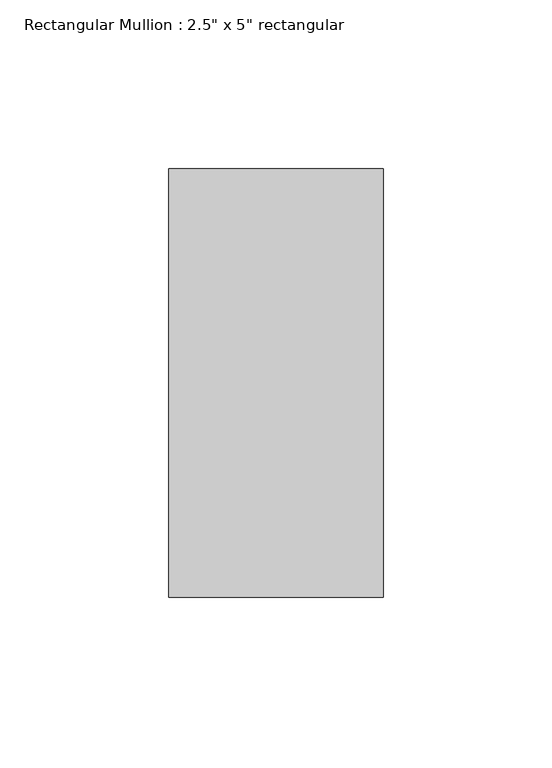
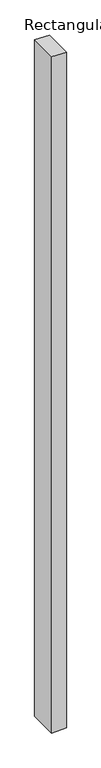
"""IFC4 building model written with IfcOpenShell, lengths in millimetres: member geometry."""

from ifc_helpers import new_model, si_unit, frame, origin, place, context, project, spatial, polyline, outline, extrude, source, transform, mapped, element, save


def member_fc36493b(model_context):
    return source(origin(), model_context, "Body", "SweptSolid", [
        extrude(outline(polyline([(0.0, 0.0), (1.1163299, -63.5), (-3088.9005782, -63.5), (-3087.8233328, 0.0), (0.0, 0.0)])), frame((0.0, -63.5, 0.0), z_axis=(0.0, 1.0, 0.0), x_axis=(0.0, 0.0, 1.0)), (0.0, 0.0, 1.0), 127.0),
    ])


if __name__ == "__main__":
    model = new_model("IFC4")
    model_context = context("Model", 3, world=origin())
    ifc_project = project(units=[si_unit("LENGTHUNIT", "METRE", prefix="MILLI")], contexts=[model_context])
    site = spatial("IfcSite", under=ifc_project)
    building = spatial("IfcBuilding", under=site)
    placement = place(None, origin())
    member_shape = member_fc36493b(model_context)
    element("IfcMember", 1, ObjectType="Rectangular Mullion : 2.5\" x 5\" rectangular", at=placement, inside=building, context=model_context, shape_type="MappedRepresentation", body=[
        mapped(member_shape, transform((0.0, 0.0, 0.0), x_axis=(1.0, 0.0, 0.0), y_axis=(0.0, 1.0, 0.0), z_axis=(0.0, 0.0, 1.0))),
    ])
    save(model, "model.ifc")
